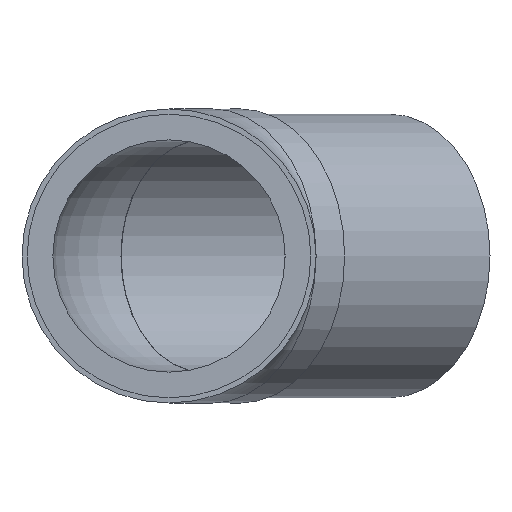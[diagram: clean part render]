
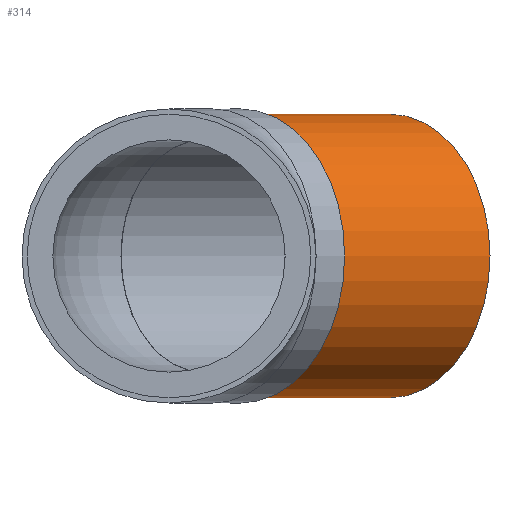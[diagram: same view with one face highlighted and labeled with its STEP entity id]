
A CAD part, front view. The second image highlights one B-rep face of the part: STEP entity #314.
In plain terms, the highlighted cylindrical face has radius 70 mm (diameter 140 mm), a full revolution.
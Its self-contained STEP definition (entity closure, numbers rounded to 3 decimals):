
#273=CARTESIAN_POINT('',(-14.142,84.853,0.));
#274=VERTEX_POINT('',#273);
#275=CARTESIAN_POINT('',(35.355,35.355,0.));
#276=DIRECTION('',(0.707,0.707,0.));
#277=DIRECTION('',(-0.707,0.707,0.));
#278=AXIS2_PLACEMENT_3D('',#275,#276,#277);
#279=CIRCLE('',#278,70.);
#280=EDGE_CURVE('',#274,#274,#279,.T.);
#290=CARTESIAN_POINT('',(59.397,158.392,0.));
#291=VERTEX_POINT('',#290);
#292=CARTESIAN_POINT('',(108.894,108.894,0.));
#293=DIRECTION('',(0.707,0.707,0.));
#294=DIRECTION('',(-0.707,0.707,0.));
#295=AXIS2_PLACEMENT_3D('',#292,#293,#294);
#296=CIRCLE('',#295,70.);
#297=EDGE_CURVE('',#291,#291,#296,.T.);
#298=ORIENTED_EDGE('',*,*,#297,.F.);
#299=CARTESIAN_POINT('',(22.627,121.622,0.));
#300=DIRECTION('',(0.707,0.707,0.));
#301=VECTOR('',#300,70.);
#302=LINE('',#299,#301);
#303=EDGE_CURVE('',#274,#291,#302,.T.);
#304=ORIENTED_EDGE('',*,*,#303,.F.);
#305=ORIENTED_EDGE('',*,*,#280,.T.);
#306=ORIENTED_EDGE('',*,*,#303,.T.);
#307=EDGE_LOOP('',(#298,#304,#305,#306));
#308=FACE_OUTER_BOUND('',#307,.T.);
#309=CARTESIAN_POINT('',(72.125,72.125,0.));
#310=DIRECTION('',(0.707,0.707,0.));
#311=DIRECTION('',(-0.707,0.707,0.));
#312=AXIS2_PLACEMENT_3D('',#309,#310,#311);
#313=CYLINDRICAL_SURFACE('',#312,70.);
#314=ADVANCED_FACE('',(#308),#313,.T.);
